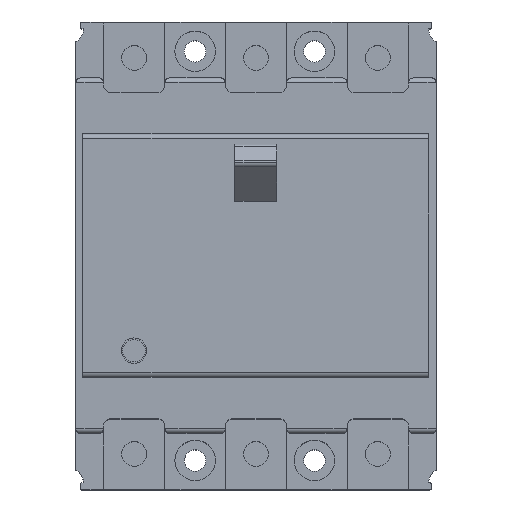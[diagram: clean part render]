
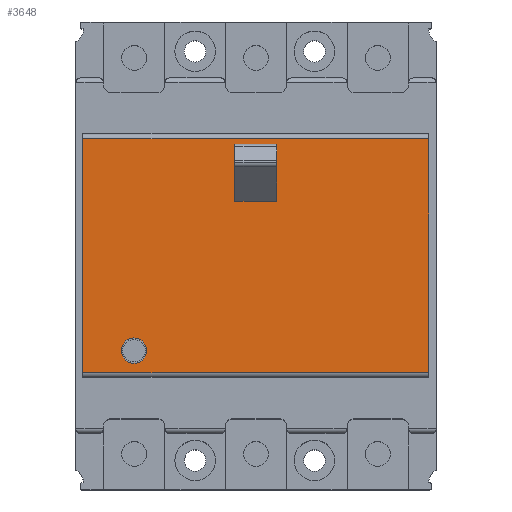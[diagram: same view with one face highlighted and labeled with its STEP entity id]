
A CAD part, top view. The second image highlights one B-rep face of the part: STEP entity #3648.
In plain terms, the highlighted planar face has unit normal (0, 0, 1).
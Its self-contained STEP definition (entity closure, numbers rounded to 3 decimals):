
#21 = DIRECTION ( 'NONE',  ( 1., 0., 0. ) ) ;
#50 = DIRECTION ( 'NONE',  ( 0., 0., 1. ) ) ;
#130 = VECTOR ( 'NONE', #4464, 1000. ) ;
#351 = CARTESIAN_POINT ( 'NONE',  ( 4.3, 12.965, 60. ) ) ;
#504 = VECTOR ( 'NONE', #1454, 1000. ) ;
#562 = ORIENTED_EDGE ( 'NONE', *, *, #1898, .T. ) ;
#589 = ORIENTED_EDGE ( 'NONE', *, *, #3191, .F. ) ;
#681 = DIRECTION ( 'NONE',  ( 0., 0., 1. ) ) ;
#688 = CARTESIAN_POINT ( 'NONE',  ( -1., 14.761, 60. ) ) ;
#705 = CARTESIAN_POINT ( 'NONE',  ( 4.3, 17.719, 60. ) ) ;
#760 = AXIS2_PLACEMENT_3D ( 'NONE', #5750, #1704, #2278 ) ;
#764 = CARTESIAN_POINT ( 'NONE',  ( 4.3, 0., 60. ) ) ;
#832 = ORIENTED_EDGE ( 'NONE', *, *, #6054, .F. ) ;
#885 = CARTESIAN_POINT ( 'NONE',  ( 4.3, 12.965, 60. ) ) ;
#926 = ORIENTED_EDGE ( 'NONE', *, *, #1299, .T. ) ;
#1022 = CARTESIAN_POINT ( 'NONE',  ( 4.3, 14.761, 60. ) ) ;
#1065 = CARTESIAN_POINT ( 'NONE',  ( -1., 17.719, 60. ) ) ;
#1076 = CARTESIAN_POINT ( 'NONE',  ( -4.3, 17.719, 60. ) ) ;
#1084 = LINE ( 'NONE', #2479, #6814 ) ;
#1089 = VECTOR ( 'NONE', #4943, 1000. ) ;
#1114 = ORIENTED_EDGE ( 'NONE', *, *, #1413, .F. ) ;
#1188 = CARTESIAN_POINT ( 'NONE',  ( 4.3, 19.474, 60. ) ) ;
#1272 = VECTOR ( 'NONE', #3031, 1000. ) ;
#1277 = EDGE_CURVE ( 'NONE', #2846, #7388, #2013, .T. ) ;
#1299 = EDGE_CURVE ( 'NONE', #7524, #5772, #1455, .T. ) ;
#1310 = EDGE_CURVE ( 'NONE', #7537, #1326, #1084, .T. ) ;
#1319 = ORIENTED_EDGE ( 'NONE', *, *, #4556, .T. ) ;
#1326 = VERTEX_POINT ( 'NONE', #5303 ) ;
#1363 = LINE ( 'NONE', #6146, #2916 ) ;
#1410 = VECTOR ( 'NONE', #4967, 1000. ) ;
#1413 = EDGE_CURVE ( 'NONE', #7524, #6401, #4907, .T. ) ;
#1454 = DIRECTION ( 'NONE',  ( 0., -1., 0. ) ) ;
#1455 = LINE ( 'NONE', #705, #1272 ) ;
#1598 = LINE ( 'NONE', #6691, #130 ) ;
#1704 = DIRECTION ( 'NONE',  ( 0., 0., -1. ) ) ;
#1707 = VECTOR ( 'NONE', #6623, 1000. ) ;
#1823 = VERTEX_POINT ( 'NONE', #4720 ) ;
#1842 = ORIENTED_EDGE ( 'NONE', *, *, #2164, .F. ) ;
#1898 = EDGE_CURVE ( 'NONE', #5797, #7298, #4095, .T. ) ;
#1917 = VECTOR ( 'NONE', #3729, 1000. ) ;
#1929 = VERTEX_POINT ( 'NONE', #2992 ) ;
#1951 = DIRECTION ( 'NONE',  ( 0., -1., 0. ) ) ;
#1958 = ORIENTED_EDGE ( 'NONE', *, *, #4124, .F. ) ;
#1994 = LINE ( 'NONE', #6268, #3353 ) ;
#2000 = CARTESIAN_POINT ( 'NONE',  ( -1., 0., 60. ) ) ;
#2013 = CIRCLE ( 'NONE', #4452, 2.6 ) ;
#2164 = EDGE_CURVE ( 'NONE', #6401, #6776, #3990, .T. ) ;
#2172 = VERTEX_POINT ( 'NONE', #351 ) ;
#2278 = DIRECTION ( 'NONE',  ( -1., 0., 0. ) ) ;
#2374 = ORIENTED_EDGE ( 'NONE', *, *, #2672, .T. ) ;
#2447 = VERTEX_POINT ( 'NONE', #4789 ) ;
#2460 = LINE ( 'NONE', #5539, #1089 ) ;
#2479 = CARTESIAN_POINT ( 'NONE',  ( -35.5, 0., 60. ) ) ;
#2672 = EDGE_CURVE ( 'NONE', #1823, #5797, #1994, .T. ) ;
#2686 = DIRECTION ( 'NONE',  ( -1., 0., 0. ) ) ;
#2723 = EDGE_LOOP ( 'NONE', ( #3939, #3848, #6466, #2997 ) ) ;
#2767 = CARTESIAN_POINT ( 'NONE',  ( -4.3, 14.761, 60. ) ) ;
#2839 = VERTEX_POINT ( 'NONE', #6436 ) ;
#2846 = VERTEX_POINT ( 'NONE', #5268 ) ;
#2916 = VECTOR ( 'NONE', #2686, 1000. ) ;
#2992 = CARTESIAN_POINT ( 'NONE',  ( -4.3, 19.474, 60. ) ) ;
#2997 = ORIENTED_EDGE ( 'NONE', *, *, #4571, .T. ) ;
#3013 = ORIENTED_EDGE ( 'NONE', *, *, #4080, .T. ) ;
#3031 = DIRECTION ( 'NONE',  ( -1., 0., 0. ) ) ;
#3191 = EDGE_CURVE ( 'NONE', #7388, #2846, #4518, .T. ) ;
#3229 = CARTESIAN_POINT ( 'NONE',  ( 4.3, 19.474, 60. ) ) ;
#3353 = VECTOR ( 'NONE', #5078, 1000. ) ;
#3418 = EDGE_CURVE ( 'NONE', #4634, #1929, #5982, .T. ) ;
#3451 = LINE ( 'NONE', #7223, #1917 ) ;
#3591 = LINE ( 'NONE', #885, #1410 ) ;
#3643 = CARTESIAN_POINT ( 'NONE',  ( 4.3, 0., 60. ) ) ;
#3648 = ADVANCED_FACE ( 'NONE', ( #7407, #5880, #7042 ), #6922, .F. ) ;
#3725 = DIRECTION ( 'NONE',  ( 0., -1., 0. ) ) ;
#3729 = DIRECTION ( 'NONE',  ( 0., -1., 0. ) ) ;
#3848 = ORIENTED_EDGE ( 'NONE', *, *, #3981, .F. ) ;
#3896 = VECTOR ( 'NONE', #6135, 1000. ) ;
#3925 = ORIENTED_EDGE ( 'NONE', *, *, #1277, .F. ) ;
#3933 = EDGE_LOOP ( 'NONE', ( #589, #3925 ) ) ;
#3939 = ORIENTED_EDGE ( 'NONE', *, *, #1310, .F. ) ;
#3981 = EDGE_CURVE ( 'NONE', #2839, #7537, #1598, .T. ) ;
#3990 = LINE ( 'NONE', #7330, #3896 ) ;
#4080 = EDGE_CURVE ( 'NONE', #2172, #5036, #3591, .T. ) ;
#4094 = CARTESIAN_POINT ( 'NONE',  ( 1., 17.719, 60. ) ) ;
#4095 = LINE ( 'NONE', #4818, #4624 ) ;
#4124 = EDGE_CURVE ( 'NONE', #1929, #5772, #4504, .T. ) ;
#4190 = CARTESIAN_POINT ( 'NONE',  ( -25., -17.7, 60. ) ) ;
#4315 = VECTOR ( 'NONE', #4693, 1000. ) ;
#4401 = ORIENTED_EDGE ( 'NONE', *, *, #7164, .T. ) ;
#4452 = AXIS2_PLACEMENT_3D ( 'NONE', #4190, #681, #4759 ) ;
#4464 = DIRECTION ( 'NONE',  ( -1., 0., 0. ) ) ;
#4504 = LINE ( 'NONE', #6317, #4760 ) ;
#4518 = CIRCLE ( 'NONE', #6608, 2.6 ) ;
#4556 = EDGE_CURVE ( 'NONE', #6281, #2172, #5595, .T. ) ;
#4571 = EDGE_CURVE ( 'NONE', #2447, #1326, #5031, .T. ) ;
#4600 = ORIENTED_EDGE ( 'NONE', *, *, #3418, .F. ) ;
#4624 = VECTOR ( 'NONE', #6004, 1000. ) ;
#4634 = VERTEX_POINT ( 'NONE', #1188 ) ;
#4693 = DIRECTION ( 'NONE',  ( -1., 0., 0. ) ) ;
#4720 = CARTESIAN_POINT ( 'NONE',  ( 4.3, 17.719, 60. ) ) ;
#4759 = DIRECTION ( 'NONE',  ( 1., 0., 0. ) ) ;
#4760 = VECTOR ( 'NONE', #6870, 1000. ) ;
#4789 = CARTESIAN_POINT ( 'NONE',  ( 35.5, 25.8, 60. ) ) ;
#4818 = CARTESIAN_POINT ( 'NONE',  ( 1., 0., 60. ) ) ;
#4907 = LINE ( 'NONE', #2000, #7438 ) ;
#4943 = DIRECTION ( 'NONE',  ( 0., -1., 0. ) ) ;
#4967 = DIRECTION ( 'NONE',  ( -1., 0., 0. ) ) ;
#5031 = LINE ( 'NONE', #5806, #4315 ) ;
#5036 = VERTEX_POINT ( 'NONE', #6720 ) ;
#5078 = DIRECTION ( 'NONE',  ( -1., 0., 0. ) ) ;
#5268 = CARTESIAN_POINT ( 'NONE',  ( -27.6, -17.7, 60. ) ) ;
#5303 = CARTESIAN_POINT ( 'NONE',  ( -35.5, 25.8, 60. ) ) ;
#5539 = CARTESIAN_POINT ( 'NONE',  ( -4.3, 0., 60. ) ) ;
#5595 = LINE ( 'NONE', #3643, #6758 ) ;
#5750 = CARTESIAN_POINT ( 'NONE',  ( 37.5, 0., 60. ) ) ;
#5772 = VERTEX_POINT ( 'NONE', #1076 ) ;
#5797 = VERTEX_POINT ( 'NONE', #4094 ) ;
#5806 = CARTESIAN_POINT ( 'NONE',  ( 37.5, 25.8, 60. ) ) ;
#5880 = FACE_BOUND ( 'NONE', #6085, .T. ) ;
#5982 = LINE ( 'NONE', #3229, #1707 ) ;
#5990 = DIRECTION ( 'NONE',  ( 0., 1., 0. ) ) ;
#6004 = DIRECTION ( 'NONE',  ( 0., -1., 0. ) ) ;
#6054 = EDGE_CURVE ( 'NONE', #6281, #7298, #1363, .T. ) ;
#6085 = EDGE_LOOP ( 'NONE', ( #2374, #562, #832, #1319, #3013, #6531, #1842, #1114, #926, #1958, #4600, #4401 ) ) ;
#6098 = EDGE_CURVE ( 'NONE', #6776, #5036, #2460, .T. ) ;
#6135 = DIRECTION ( 'NONE',  ( -1., 0., 0. ) ) ;
#6146 = CARTESIAN_POINT ( 'NONE',  ( 4.3, 14.761, 60. ) ) ;
#6268 = CARTESIAN_POINT ( 'NONE',  ( 4.3, 17.719, 60. ) ) ;
#6281 = VERTEX_POINT ( 'NONE', #1022 ) ;
#6317 = CARTESIAN_POINT ( 'NONE',  ( -4.3, 0., 60. ) ) ;
#6358 = CARTESIAN_POINT ( 'NONE',  ( -35.5, -22.2, 60. ) ) ;
#6401 = VERTEX_POINT ( 'NONE', #688 ) ;
#6436 = CARTESIAN_POINT ( 'NONE',  ( 35.5, -22.2, 60. ) ) ;
#6466 = ORIENTED_EDGE ( 'NONE', *, *, #6606, .F. ) ;
#6531 = ORIENTED_EDGE ( 'NONE', *, *, #6098, .F. ) ;
#6606 = EDGE_CURVE ( 'NONE', #2447, #2839, #3451, .T. ) ;
#6608 = AXIS2_PLACEMENT_3D ( 'NONE', #6977, #50, #21 ) ;
#6623 = DIRECTION ( 'NONE',  ( -1., 0., 0. ) ) ;
#6677 = LINE ( 'NONE', #764, #504 ) ;
#6691 = CARTESIAN_POINT ( 'NONE',  ( 37.5, -22.2, 60. ) ) ;
#6720 = CARTESIAN_POINT ( 'NONE',  ( -4.3, 12.965, 60. ) ) ;
#6736 = CARTESIAN_POINT ( 'NONE',  ( -22.4, -17.7, 60. ) ) ;
#6758 = VECTOR ( 'NONE', #1951, 1000. ) ;
#6776 = VERTEX_POINT ( 'NONE', #2767 ) ;
#6814 = VECTOR ( 'NONE', #5990, 1000. ) ;
#6870 = DIRECTION ( 'NONE',  ( 0., -1., 0. ) ) ;
#6922 = PLANE ( 'NONE',  #760 ) ;
#6977 = CARTESIAN_POINT ( 'NONE',  ( -25., -17.7, 60. ) ) ;
#7042 = FACE_OUTER_BOUND ( 'NONE', #2723, .T. ) ;
#7164 = EDGE_CURVE ( 'NONE', #4634, #1823, #6677, .T. ) ;
#7223 = CARTESIAN_POINT ( 'NONE',  ( 35.5, 0., 60. ) ) ;
#7298 = VERTEX_POINT ( 'NONE', #7315 ) ;
#7315 = CARTESIAN_POINT ( 'NONE',  ( 1., 14.761, 60. ) ) ;
#7330 = CARTESIAN_POINT ( 'NONE',  ( 4.3, 14.761, 60. ) ) ;
#7388 = VERTEX_POINT ( 'NONE', #6736 ) ;
#7407 = FACE_BOUND ( 'NONE', #3933, .T. ) ;
#7438 = VECTOR ( 'NONE', #3725, 1000. ) ;
#7524 = VERTEX_POINT ( 'NONE', #1065 ) ;
#7537 = VERTEX_POINT ( 'NONE', #6358 ) ;
